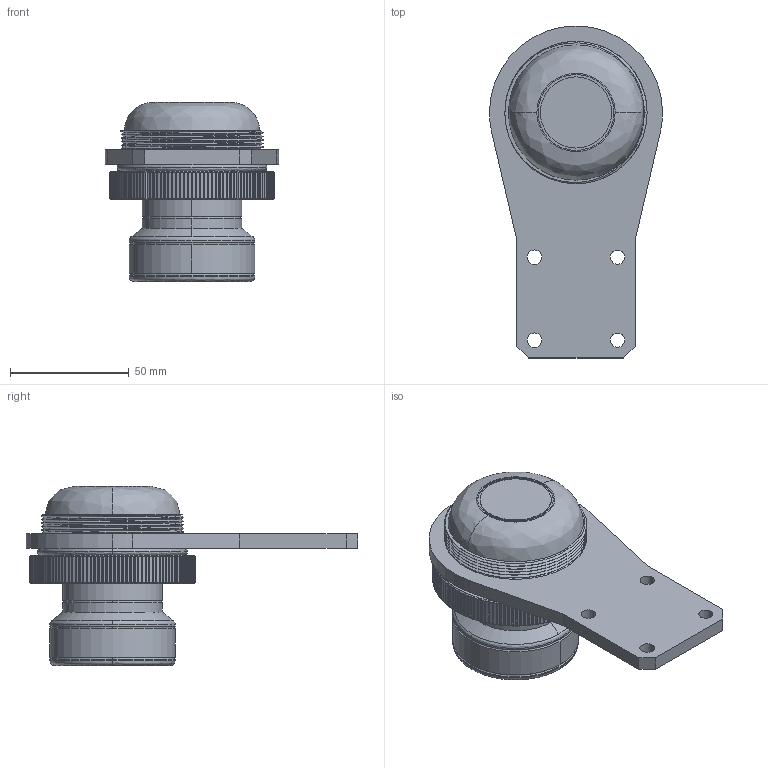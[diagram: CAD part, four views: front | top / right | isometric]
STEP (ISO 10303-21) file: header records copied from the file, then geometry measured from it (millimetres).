
FILE_DESCRIPTION (( 'STEP AP203' ), '1' );
FILE_NAME ('TM Mount & Bkt---IVIC.STEP', '2024-09-20T04:19:11', ( 'a' ), ( '' ), 'SwSTEP 2.0', 'SolidWorks 2007', '' );
FILE_SCHEMA (( 'CONFIG_CONTROL_DESIGN' ));
Length unit declared in the file: millimetre
Products named in the file (3): TM Mount & Bkt---IVIC; _D___Mounting_BKT_t6mm_01001_ル遽; _D_TM_mount_01002_ル遽
Assembly tree (2 placements, depth 2):
  TM Mount & Bkt---IVIC
    _D_TM_mount_01002_ル遽
    _D___Mounting_BKT_t6mm_01001_ル遽
Bounding box: 73 x 140 x 75.5 mm (x, y, z)
Volume: 191014.3 mm3; surface area: 56880.3 mm2
Topology: 6 solids, 6 shells, 797 faces, 1786 edges, 1010 vertices
Faces by surface type: plane 291, cone 266, cylinder 200, bspline 40
Entity records: 26234 total; most frequent: CARTESIAN_POINT 9272, ORIENTED_EDGE 3572, DIRECTION 3358, EDGE_CURVE 1786, AXIS2_PLACEMENT_3D 1423, VERTEX_POINT 1010, EDGE_LOOP 820, ADVANCED_FACE 797
